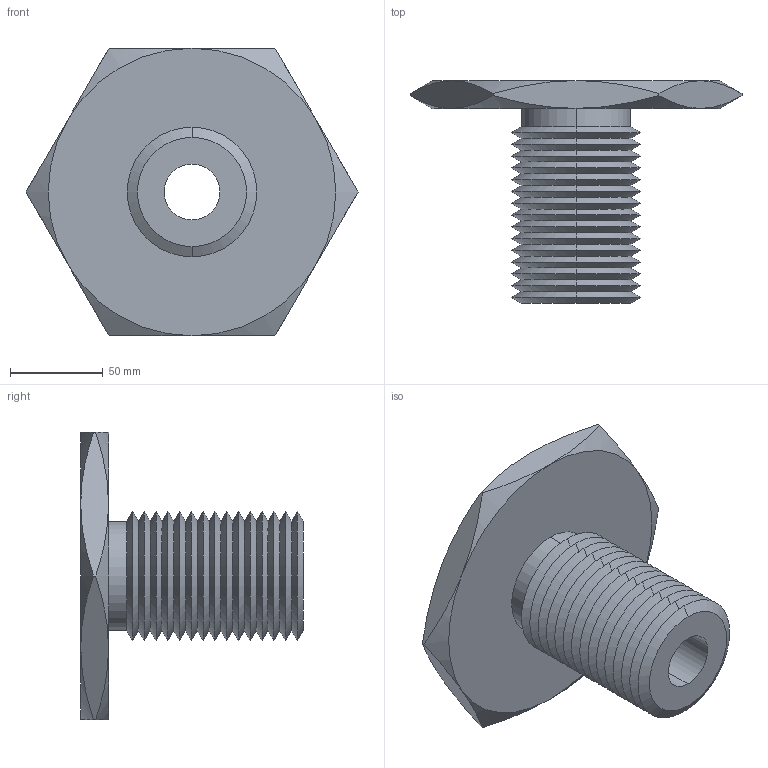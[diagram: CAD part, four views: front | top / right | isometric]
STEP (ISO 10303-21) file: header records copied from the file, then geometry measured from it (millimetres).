
FILE_DESCRIPTION (( 'STEP AP203' ), '1' );
FILE_NAME ('63302.W5275_M30x3,5.step', '2013-12-08T11:51:55', ( 'User' ), ( '' ), 'SwSTEP 2.0', 'SolidWorks 2009', '' );
FILE_SCHEMA (( 'CONFIG_CONTROL_DESIGN' ));
Length unit declared in the file: millimetre
Products named in the file (1): 63302.W5275_M30x3,5
Bounding box: 178.98 x 120 x 155 mm (x, y, z)
Volume: 555627.4 mm3; surface area: 97749.8 mm2
Topology: 1 solids, 1 shells, 87 faces, 178 edges, 94 vertices
Faces by surface type: cone 74, plane 9, cylinder 4
Entity records: 2479 total; most frequent: CARTESIAN_POINT 584, DIRECTION 412, ORIENTED_EDGE 356, EDGE_CURVE 178, AXIS2_PLACEMENT_3D 170, VERTEX_POINT 94, EDGE_LOOP 90, ADVANCED_FACE 87
